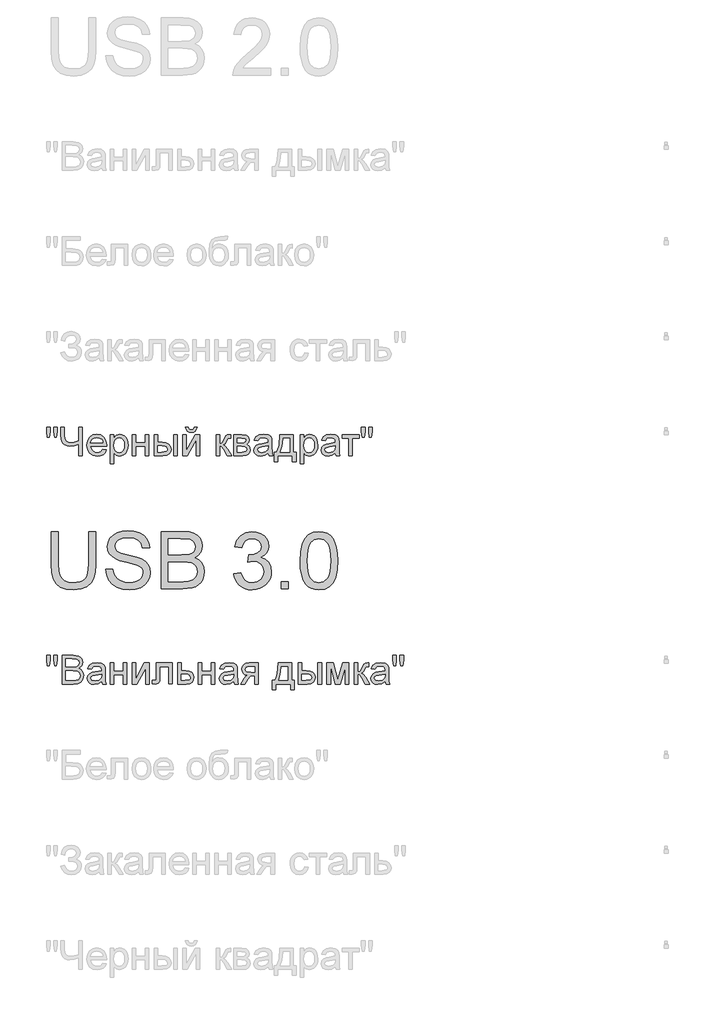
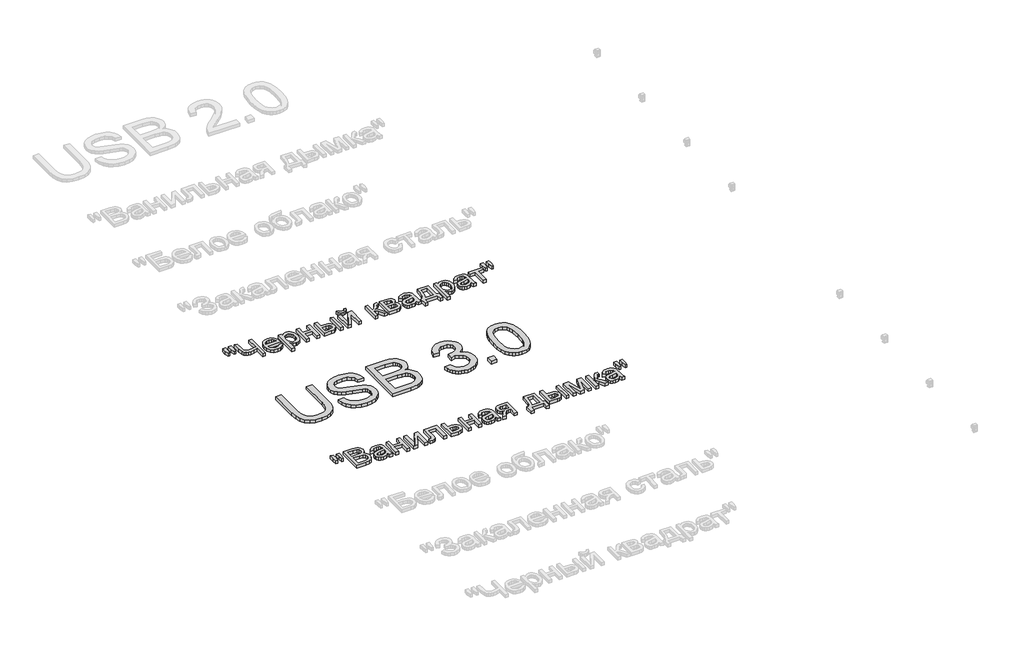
# One storey, part 32 of 168: 3 proxies.
"""IFC4 building model written with IfcOpenShell, lengths in millimetres."""

from ifc_helpers import new_model, si_unit, origin, origin_with_axes, place, context, project, spatial, polyline, outline, extrude, element, save

model = new_model("IFC4")

# Units and contexts
model_context = context("Model", 3, world=origin())
ifc_project = project(units=[si_unit("LENGTHUNIT", "METRE", prefix="MILLI")], contexts=[model_context])

# Site, building, storey
site = spatial("IfcSite", under=ifc_project)
building = spatial("IfcBuilding", under=site)
storey = spatial("IfcBuildingStorey", under=building, Name="Этаж 01", Elevation=0.0)

# Proxies
placement = place(None, origin())
element("IfcBuildingElementProxy", 1, Name="300 мм Arial 2", ObjectType="300 мм Arial 2", at=placement, inside=storey, context=model_context, shape_type="SweptSolid", body=[
    extrude(outline(polyline([(60396.8678623, -49465.4933673), (60434.5389786, -49465.4933673), (60434.5389786, -49639.3543982), (60431.9821987, -49680.069738), (60424.3118591, -49711.4224811), (60409.9828554, -49735.6107222), (60387.4500832, -49754.8325565), (60356.6583602, -49767.3865296), (60317.5525041, -49771.5711873), (60279.3019737, -49767.9291555), (60248.7217828, -49757.0030603), (60225.8027345, -49739.1699805), (60210.5356317, -49714.8069954), (60201.9547842, -49682.1298772), (60199.0945017, -49639.3543982), (60199.0945017, -49465.4933673), (60236.765618, -49465.4933673), (60236.765618, -49638.030023), (60238.623422, -49671.8843636), (60244.1968343, -49695.4564025), (60254.295195, -49711.781166), (60269.7278447, -49723.8936807), (60289.8509899, -49731.3984734), (60314.020837, -49733.900071), (60352.3357467, -49728.9520581), (60366.678546, -49722.7670421), (60377.8115749, -49714.1080196), (60386.1487006, -49701.9311256), (60392.1037904, -49685.1924948), (60396.8678623, -49638.030023), (60396.8678623, -49465.4933673)])), origin_with_axes(), (0.0, 0.0, 1.0), 20.0),
    extrude(outline(polyline([(60486.3367635, -49663.2667279), (60524.0078798, -49663.2667279), (60528.3304932, -49684.1716223), (60536.1479856, -49700.9746324), (60548.3432738, -49714.3103547), (60565.7992744, -49724.8133857), (60587.1364302, -49731.6283996), (60610.9751835, -49733.900071), (60631.9628513, -49732.1802226), (60650.3385569, -49727.0206777), (60665.2285807, -49718.8536974), (60675.7592028, -49708.1115431), (60682.0223938, -49695.7782992), (60684.1101241, -49682.83805), (60682.5466256, -49670.2288947), (60677.8561302, -49659.3303905), (60668.3279865, -49650.0321731), (60652.2515433, -49642.2238778), (60597.4003378, -49627.8396918), (60561.3938876, -49618.3207451), (60538.3552776, -49609.261651), (60519.6024929, -49596.5881163), (60506.3127558, -49581.229043), (60498.3940959, -49563.5155249), (60495.7545426, -49543.7786559), (60499.0194953, -49521.7149332), (60508.8143534, -49501.1411326), (60524.8815995, -49483.703526), (60546.9637163, -49471.0483854), (60573.469614, -49463.3504547), (60602.8082032, -49460.7844777), (60634.5932075, -49463.4700163), (60662.4050864, -49471.526632), (60685.2505583, -49484.7887779), (60702.1363419, -49503.0909072), (60712.8233138, -49525.2925856), (60717.0723509, -49550.253379), (60679.4012346, -49550.253379), (60672.4850531, -49527.7757891), (60658.0640788, -49511.5521931), (60635.5313066, -49501.7297438), (60604.2797311, -49498.4555941), (60572.2923917, -49501.6929556), (60550.3482307, -49511.4050403), (60537.6563018, -49525.6972558), (60533.4256589, -49542.6750099), (60536.4238971, -49557.1511664), (60545.4186119, -49568.7946315), (60566.6821912, -49579.205692), (60606.9284815, -49589.8374817), (60648.4623588, -49599.9358424), (60673.588699, -49608.7466162), (60695.0638105, -49622.4134323), (60710.0458048, -49639.2808218), (60718.8473815, -49659.1648436), (60721.7812404, -49681.8815568), (60718.4059231, -49705.1041078), (60708.2799712, -49726.9471013), (60691.8172519, -49745.7458712), (60669.4316325, -49759.8357516), (60642.5118675, -49768.6373284), (60612.4467114, -49771.5711873), (60575.5389503, -49768.4074021), (60545.1610945, -49758.9160466), (60520.9636563, -49743.0603326), (60502.5971477, -49720.8034719), (60490.8065297, -49693.6905689), (60486.3367635, -49663.2667279)])), origin_with_axes(), (0.0, 0.0, 1.0), 20.0),
    extrude(outline(polyline([(60778.2879149, -49766.8622977), (60778.2879149, -49465.4933673), (60893.2878266, -49465.4933673), (60924.9164811, -49467.7098563), (60949.61056, -49474.3593234), (60968.5380887, -49485.6073154), (60982.8670924, -49501.6193792), (60991.8893983, -49520.4549374), (60994.8968336, -49540.1734123), (60992.3676449, -49558.3191917), (60984.7800788, -49575.3797192), (60972.0789529, -49590.3065312), (60954.209085, -49602.0511639), (60975.5554377, -49613.1979883), (60991.3283783, -49630.1573483), (61001.0680541, -49651.8072037), (61004.3146127, -49677.0255145), (61002.0981237, -49698.0407735), (60995.4486566, -49717.5293222), (60985.5250398, -49734.1024061), (60973.4861015, -49746.3712706), (60958.7432305, -49755.2556208), (60940.7078157, -49761.6751616), (60892.4049098, -49766.8622977), (60778.2879149, -49766.8622977)]), holes=[polyline([(60815.9590312, -49587.9244953), (60884.7529643, -49587.9244953), (60924.9256781, -49584.6871337), (60938.9879674, -49579.1045244), (60949.0955252, -49570.7444061), (60955.1931693, -49559.7355374), (60957.2257173, -49546.206677), (60955.331125, -49533.0732898), (60949.6473482, -49521.6321597), (60940.4319042, -49512.7018243), (60927.9423105, -49507.1008209), (60879.5290399, -49503.1644836), (60815.9590312, -49503.1644836), (60815.9590312, -49587.9244953)]), polyline([(60815.9590312, -49729.1911814), (60893.2142502, -49729.1911814), (60921.1732818, -49727.7196534), (60944.8280941, -49719.515885), (60960.4998671, -49702.7772542), (60965.1075891, -49690.949848), (60966.6434964, -49677.3933965), (60964.8408746, -49661.6480471), (60959.4330093, -49648.1099897), (60949.9876391, -49637.5241853), (60936.0725026, -49630.6355949), (60916.3632247, -49626.8556074), (60889.5354302, -49625.5956116), (60815.9590312, -49625.5956116), (60815.9590312, -49729.1911814)])]), origin_with_axes(), (0.0, 0.0, 1.0), 20.0),
    extrude(outline(polyline([(61159.7079675, -49686.8111756), (61197.3790838, -49682.102286), (61205.8127785, -49705.7754924), (61218.1644165, -49721.7599651), (61235.041003, -49730.8650445), (61257.0495434, -49733.900071), (61282.8748594, -49729.7246103), (61302.8140636, -49717.1982284), (61315.5611747, -49698.509823), (61319.8102118, -49675.8482921), (61315.5979629, -49654.3363925), (61302.9612164, -49636.8895888), (61283.8313526, -49625.3288971), (61260.1397521, -49621.4753332), (61233.7258249, -49625.5956116), (61237.9196796, -49587.9244953), (61243.9529444, -49588.3659537), (61266.5225048, -49585.662021), (61286.7008322, -49577.550223), (61300.9378654, -49563.8282246), (61305.6835431, -49544.2936907), (61302.2438465, -49528.0241094), (61291.9247565, -49514.8263428), (61276.1794071, -49506.0799484), (61256.4609322, -49503.1644836), (61236.7056691, -49506.1075396), (61220.5556495, -49514.9367074), (61208.7650315, -49529.6519872), (61202.0879733, -49550.253379), (61164.416857, -49545.5444894), (61175.5084992, -49511.71774), (61195.2453682, -49486.462641), (61222.2479066, -49470.7356857), (61255.136557, -49465.4933673), (61278.8189605, -49468.0777383), (61300.5699834, -49475.8308513), (61318.9089009, -49488.0629277), (61332.3549878, -49504.0841886), (61340.6047415, -49522.5426677), (61343.3546595, -49542.0863987), (61340.7426973, -49560.2965574), (61332.9068108, -49576.814459), (61319.9573646, -49590.8859453), (61302.0047232, -49601.7568583), (61325.5859591, -49611.285002), (61343.0603539, -49627.508598), (61353.8760845, -49649.5447295), (61357.4813281, -49676.5104797), (61355.6787063, -49695.6219494), (61350.270841, -49713.2251028), (61341.2577321, -49729.3199401), (61328.6393796, -49743.9064612), (61313.2665108, -49756.0097789), (61295.9898526, -49764.6550058), (61276.8094051, -49769.8421419), (61255.7251682, -49771.5711873), (61236.6688809, -49770.0950608), (61219.3048507, -49765.6666812), (61203.6330777, -49758.2860487), (61189.6535619, -49747.9531632), (61177.9319218, -49735.2750299), (61169.033776, -49720.8586542), (61162.9591246, -49704.7040361), (61159.7079675, -49686.8111756)])), origin_with_axes(), (0.0, 0.0, 1.0), 20.0),
    extrude(outline(polyline([(61409.279113, -49766.8622977), (61409.279113, -49729.1911814), (61446.9502293, -49729.1911814), (61446.9502293, -49766.8622977), (61409.279113, -49766.8622977)])), origin_with_axes(), (0.0, 0.0, 1.0), 20.0),
    extrude(outline(polyline([(61508.1657933, -49618.6058537), (61510.9341053, -49570.3673271), (61519.2390413, -49531.8960674), (61532.997828, -49502.6034635), (61552.1276917, -49481.9009043), (61576.7665883, -49469.5952515), (61607.0524736, -49465.4933673), (61630.2658275, -49467.9213885), (61651.0511602, -49475.205452), (61668.4335845, -49487.0604493), (61681.438213, -49503.2012718), (61691.2606623, -49523.4899638), (61699.0965488, -49547.7885696), (61704.2285026, -49578.644672), (61705.9391539, -49618.6058537), (61703.198433, -49666.5684688), (61694.9762704, -49704.9477579), (61681.3002573, -49734.267953), (61662.1979847, -49755.0532857), (61637.5039057, -49767.4417119), (61607.0524736, -49771.5711873), (61586.3039291, -49769.7777625), (61567.9098293, -49764.3974884), (61551.8701743, -49755.4303647), (61538.1849641, -49742.8763916), (61525.0515769, -49720.1826711), (61515.670586, -49691.9063412), (61510.0419915, -49658.0474021), (61508.1657933, -49618.6058537)]), holes=[polyline([(61545.8369096, -49618.5322773), (61550.2514935, -49677.7888697), (61555.7697235, -49698.0568683), (61563.4952454, -49712.0846687), (61583.2137203, -49728.4462204), (61607.0524736, -49733.900071), (61630.8912269, -49728.4278263), (61650.6097018, -49712.0110923), (61658.3352237, -49697.9602993), (61663.8534537, -49677.6968992), (61668.2680376, -49618.5322773), (61664.0006065, -49560.6092571), (61658.6663175, -49540.4079371), (61651.198313, -49526.0467437), (61631.5166263, -49508.8850486), (61606.6110152, -49503.1644836), (61583.0297793, -49508.2044669), (61564.0838566, -49523.3244169), (61556.1008173, -49538.9594017), (61550.3986463, -49560.03904), (61545.8369096, -49618.5322773)])]), origin_with_axes(), (0.0, 0.0, 1.0), 20.0),
])
element("IfcBuildingElementProxy", 2, Name="150", ObjectType="150", at=placement, inside=storey, context=model_context, shape_type="SweptSolid", body=[
    extrude(outline(polyline([(60180.1485789, -48970.3300622), (60175.550054, -48941.2305964), (60175.550054, -48916.1778325), (60194.3856121, -48916.1778325), (60194.3856121, -48941.2305964), (60190.2653338, -48970.3300622), (60180.1485789, -48970.3300622)])), origin_with_axes(), (0.0, 0.0, 1.0), 20.0),
    extrude(outline(polyline([(60217.7093306, -48970.3300622), (60213.2211703, -48941.2305964), (60213.2211703, -48916.1778325), (60232.0567284, -48916.1778325), (60232.0567284, -48941.2305964), (60227.6421445, -48970.3300622), (60217.7093306, -48970.3300622)])), origin_with_axes(), (0.0, 0.0, 1.0), 20.0),
    extrude(outline(polyline([(60363.9056355, -49066.8622977), (60345.0700773, -49066.8622977), (60345.0700773, -49006.5296505), (60320.0908899, -49014.6966308), (60298.4226404, -49017.4189576), (60283.7395502, -49015.556555), (60270.886673, -49009.9693472), (60260.926268, -49001.5172583), (60254.9205944, -48991.0602126), (60250.8922866, -48961.0594359), (60250.8922866, -48916.1778325), (60269.7278447, -48916.1778325), (60269.7278447, -48958.5210502), (60271.990319, -48978.8879171), (60278.7777418, -48990.8394834), (60288.7381468, -48996.6474204), (60300.5195677, -48998.5833994), (60322.2521966, -48996.2473488), (60345.0700773, -48989.2391968), (60345.0700773, -48916.1778325), (60363.9056355, -48916.1778325), (60363.9056355, -49066.8622977)])), origin_with_axes(), (0.0, 0.0, 1.0), 20.0),
    extrude(outline(polyline([(60471.9893657, -49033.900071), (60490.4570418, -49036.2545157), (60483.8029762, -49050.1696522), (60473.1849822, -49060.5715156), (60458.8421829, -49067.0554358), (60441.0137017, -49069.2167425), (60418.9131908, -49065.4873388), (60401.9078456, -49054.2991276), (60391.0645238, -49036.3786759), (60387.4500832, -49012.4525506), (60391.101312, -48987.7216835), (60402.0549984, -48969.2264162), (60418.8304174, -48957.6933157), (60439.9468439, -48953.8489488), (60460.4056814, -48957.6841186), (60476.7534375, -48969.189628), (60487.4725992, -48987.6481071), (60491.045653, -49012.342186), (60490.9352884, -49017.4189576), (60406.2856413, -49017.4189576), (60409.5459955, -49031.518035), (60417.1197661, -49041.8831103), (60428.0504599, -49048.2566658), (60441.3815837, -49050.3811843), (60459.8492598, -49046.444847), (60471.9893657, -49033.900071)]), holes=[polyline([(60406.2856413, -48998.5833994), (60472.2100949, -48998.5833994), (60469.6625121, -48988.6321915), (60464.668514, -48981.5136749), (60453.6872364, -48974.8917989), (60439.8732675, -48972.684507), (60427.1767401, -48974.445742), (60416.6783077, -48979.7294472), (60409.3804486, -48987.9654053), (60406.2856413, -48998.5833994)])]), origin_with_axes(), (0.0, 0.0, 1.0), 20.0),
    extrude(outline(polyline([(60509.8812112, -49109.2423036), (60509.8812112, -48956.2033936), (60528.7167693, -48956.2033936), (60528.7167693, -48974.6710697), (60541.739792, -48959.054479), (60559.3245513, -48953.8489488), (60572.0624654, -48955.6699647), (60583.2000928, -48961.1330123), (60592.268384, -48969.9069979), (60598.7982894, -48981.6608277), (60604.0590019, -49010.6867171), (60602.5736784, -49026.7953499), (60598.1177077, -49041.2025286), (60590.8336442, -49053.1770875), (60580.8640422, -49061.9878613), (60569.2527667, -49067.4095222), (60557.043683, -49069.2167425), (60540.6545401, -49064.3790943), (60528.7167693, -49052.1470179), (60528.7167693, -49109.2423036), (60509.8812112, -49109.2423036)]), holes=[polyline([(60528.7167693, -49012.4157624), (60530.7539159, -49029.301546), (60536.8653555, -49041.1105581), (60545.8830629, -49048.0635278), (60556.6390128, -49050.3811843), (60567.5697066, -49047.9807543), (60576.8173402, -49040.7794643), (60583.1219179, -49028.5381909), (60585.2234438, -49011.0178109), (60583.1725017, -48994.2239978), (60577.0196753, -48982.2494388), (60568.0157635, -48975.0757399), (60557.411565, -48972.684507), (60546.7659797, -48975.2274913), (60537.4171785, -48982.8564441), (60530.8918716, -48995.3322423), (60528.7167693, -49012.4157624)])]), origin_with_axes(), (0.0, 0.0, 1.0), 20.0),
    extrude(outline(polyline([(60625.2490049, -48956.2033936), (60644.084563, -48956.2033936), (60644.084563, -48998.5833994), (60693.5279032, -48998.5833994), (60693.5279032, -48956.2033936), (60712.3634613, -48956.2033936), (60712.3634613, -49066.8622977), (60693.5279032, -49066.8622977), (60693.5279032, -49017.4189576), (60644.084563, -49017.4189576), (60644.084563, -49066.8622977), (60625.2490049, -49066.8622977), (60625.2490049, -48956.2033936)])), origin_with_axes(), (0.0, 0.0, 1.0), 20.0),
    extrude(outline(polyline([(60844.2123684, -48956.2033936), (60863.0479266, -48956.2033936), (60863.0479266, -49066.8622977), (60844.2123684, -49066.8622977), (60844.2123684, -48956.2033936)])), origin_with_axes(), (0.0, 0.0, 1.0), 20.0),
    extrude(outline(polyline([(60740.6167986, -48956.2033936), (60759.4523567, -48956.2033936), (60759.4523567, -48996.2289547), (60782.739287, -48996.2289547), (60802.8670307, -48998.587998), (60817.780047, -49005.6651278), (60827.0092866, -49016.8901272), (60830.0856998, -49031.692779), (60827.5059273, -49045.1710556), (60819.7666098, -49056.5432078), (60806.3619096, -49064.2825252), (60786.785989, -49066.8622977), (60740.6167986, -49066.8622977), (60740.6167986, -48956.2033936)]), holes=[polyline([(60759.4523567, -49048.0267396), (60778.8029497, -49048.0267396), (60803.7821371, -49044.0720081), (60809.3831405, -49039.0090322), (60811.2501416, -49031.7295672), (60805.7135176, -49020.1412843), (60796.8337659, -49016.3337057), (60781.267759, -49015.0645128), (60759.4523567, -49015.0645128), (60759.4523567, -49048.0267396)])]), origin_with_axes(), (0.0, 0.0, 1.0), 20.0),
    extrude(outline(polyline([(60891.3012638, -48956.2033936), (60910.1368219, -48956.2033936), (60910.1368219, -49040.5955233), (60956.4163769, -48956.2033936), (60980.770165, -48956.2033936), (60980.770165, -49066.8622977), (60961.9346069, -49066.8622977), (60961.9346069, -48982.9852028), (60915.9493575, -49066.8622977), (60891.3012638, -49066.8622977), (60891.3012638, -48956.2033936)])), origin_with_axes(), (0.0, 0.0, 1.0), 20.0),
    extrude(outline(polyline([(60952.5168278, -48916.1778325), (60966.6434964, -48916.1778325), (60963.6038714, -48928.2397634), (60957.5016288, -48937.1287121), (60948.6126801, -48942.6055553), (60937.2129368, -48944.4311697), (60924.8429047, -48942.6193509), (60915.2503817, -48937.1838944), (60908.6928851, -48928.3087413), (60905.4279324, -48916.1778325), (60919.554601, -48916.1778325), (60924.8521017, -48926.7912281), (60935.5206796, -48930.3045011), (60947.219327, -48926.9015927), (60952.5168278, -48916.1778325)])), origin_with_axes(), (0.0, 0.0, 1.0), 20.0),
    extrude(outline(polyline([(61067.8846215, -48956.2033936), (61086.7201796, -48956.2033936), (61086.7201796, -49003.292289), (61099.3385321, -48999.9077746), (61109.6760161, -48980.1892997), (61118.2660607, -48963.1747574), (61125.8444298, -48957.6381334), (61139.6216105, -48956.2033936), (61143.2268541, -48956.2033936), (61143.2268541, -48975.1493163), (61138.1500825, -48975.0389517), (61128.9530327, -48977.0255145), (61122.4783096, -48989.4231377), (61114.8815464, -49002.8324365), (61104.2313626, -49009.3991301), (61116.113951, -49016.7291788), (61127.7758103, -49032.1710256), (61147.9357436, -49066.8622977), (61126.5250115, -49066.8622977), (61106.7697484, -49032.9067896), (61096.8369345, -49018.5409977), (61086.7201796, -49015.0645128), (61086.7201796, -49066.8622977), (61067.8846215, -49066.8622977), (61067.8846215, -48956.2033936)])), origin_with_axes(), (0.0, 0.0, 1.0), 20.0),
    extrude(outline(polyline([(61159.7079675, -48956.2033936), (61201.2050565, -48956.2033936), (61223.9585579, -48958.7233853), (61236.7608514, -48967.9572233), (61242.1135344, -48984.0520606), (61238.8761728, -48997.1302655), (61229.1273, -49006.4560741), (61241.7824406, -49016.6647995), (61246.8224239, -49034.4151058), (61243.6310476, -49048.7717006), (61236.0434815, -49058.8792584), (61224.0321343, -49064.8665379), (61207.569415, -49066.8622977), (61159.7079675, -49066.8622977), (61159.7079675, -48956.2033936)]), holes=[polyline([(61178.5435256, -48998.5833994), (61197.1583546, -48998.5833994), (61212.5174279, -48997.6269062), (61219.9854324, -48993.8009335), (61223.2779762, -48986.884752), (61221.8340394, -48981.2653545), (61217.5022289, -48977.6509139), (61197.7469658, -48975.0389517), (61178.5435256, -48975.0389517), (61178.5435256, -48998.5833994)]), polyline([(61178.5435256, -49048.0267396), (61201.6465149, -49048.0267396), (61222.137542, -49044.6238311), (61226.377382, -49039.9839195), (61227.9868658, -49032.8700014), (61224.7678983, -49023.8017102), (61216.3801888, -49018.5226036), (61199.8071049, -49017.4189576), (61178.5435256, -49017.4189576), (61178.5435256, -49048.0267396)])]), origin_with_axes(), (0.0, 0.0, 1.0), 20.0),
    extrude(outline(polyline([(61341.0002147, -49052.7356291), (61322.7348736, -49065.5011344), (61302.5565462, -49069.2167425), (61286.8157953, -49066.9818594), (61275.2045198, -49060.27721), (61268.0446165, -49050.0960758), (61265.6579821, -49037.4317381), (61269.2632256, -49022.5325173), (61278.736187, -49011.7167867), (61291.9247565, -49005.5363691), (61308.2219289, -49002.7036778), (61340.8898501, -48996.2289547), (61341.0002147, -48992.0350999), (61339.7034307, -48983.6289963), (61335.8130786, -48978.1291605), (61327.1126694, -48974.0456704), (61314.9909576, -48972.684507), (61295.9346703, -48976.3081446), (61286.847985, -48989.1656204), (61268.0124268, -48986.8111756), (61276.161013, -48968.4170758), (61292.56855, -48957.6381334), (61317.4189788, -48953.8489488), (61340.2460566, -48957.196675), (61353.1403205, -48965.6027786), (61358.9160679, -48978.3866779), (61359.8357728, -48994.8677913), (61359.8357728, -49018.3018744), (61360.792266, -49051.0249778), (61364.5446624, -49066.8622977), (61345.7091042, -49066.8622977), (61341.0002147, -49052.7356291)]), holes=[polyline([(61341.0002147, -49015.0645128), (61310.6131619, -49020.8402601), (61294.40796, -49023.8936807), (61287.0687142, -49028.8600876), (61284.4935402, -49036.1073629), (61290.1037407, -49046.2976942), (61306.5664599, -49050.3811843), (61325.6227473, -49045.8746299), (61337.9100059, -49034.9669288), (61340.8898501, -49020.3988017), (61341.0002147, -49015.0645128)])]), origin_with_axes(), (0.0, 0.0, 1.0), 20.0),
    extrude(outline(polyline([(61402.2157787, -48956.2033936), (61472.8491218, -48956.2033936), (61472.8491218, -49048.0267396), (61486.9757904, -49048.0267396), (61486.9757904, -49097.4700797), (61468.1402322, -49097.4700797), (61468.1402322, -49066.8622977), (61390.4435548, -49066.8622977), (61390.4435548, -49097.4700797), (61371.6079967, -49097.4700797), (61371.6079967, -49048.0267396), (61383.3802205, -49048.0267396), (61391.9380754, -49032.5619002), (61397.9299534, -49012.1030628), (61402.2157787, -48956.2033936)]), holes=[polyline([(61418.6968921, -48975.0389517), (61414.2823081, -49017.9523865), (61404.5702235, -49048.0267396), (61454.0135636, -49048.0267396), (61454.0135636, -48975.0389517), (61418.6968921, -48975.0389517)])]), origin_with_axes(), (0.0, 0.0, 1.0), 20.0),
    extrude(outline(polyline([(61508.1657933, -49109.2423036), (61508.1657933, -48956.2033936), (61527.0013514, -48956.2033936), (61527.0013514, -48974.6710697), (61540.0243741, -48959.054479), (61557.6091334, -48953.8489488), (61570.3470475, -48955.6699647), (61581.4846749, -48961.1330123), (61590.5529661, -48969.9069979), (61597.0828715, -48981.6608277), (61602.3435841, -49010.6867171), (61600.8582605, -49026.7953499), (61596.4022898, -49041.2025286), (61589.1182263, -49053.1770875), (61579.1486243, -49061.9878613), (61567.5373488, -49067.4095222), (61555.3282651, -49069.2167425), (61538.9391222, -49064.3790943), (61527.0013514, -49052.1470179), (61527.0013514, -49109.2423036), (61508.1657933, -49109.2423036)]), holes=[polyline([(61527.0013514, -49012.4157624), (61529.038498, -49029.301546), (61535.1499376, -49041.1105581), (61544.167645, -49048.0635278), (61554.9235949, -49050.3811843), (61565.8542887, -49047.9807543), (61575.1019223, -49040.7794643), (61581.4065, -49028.5381909), (61583.5080259, -49011.0178109), (61581.4570838, -48994.2239978), (61575.3042574, -48982.2494388), (61566.3003456, -48975.0757399), (61555.6961471, -48972.684507), (61545.0505618, -48975.2274913), (61535.7017606, -48982.8564441), (61529.1764537, -48995.3322423), (61527.0013514, -49012.4157624)])]), origin_with_axes(), (0.0, 0.0, 1.0), 20.0),
    extrude(outline(polyline([(61694.1669301, -49052.7356291), (61675.901589, -49065.5011344), (61655.7232616, -49069.2167425), (61639.9825107, -49066.9818594), (61628.3712352, -49060.27721), (61621.2113319, -49050.0960758), (61618.8246974, -49037.4317381), (61622.429941, -49022.5325173), (61631.9029024, -49011.7167867), (61645.0914719, -49005.5363691), (61661.3886443, -49002.7036778), (61694.0565655, -48996.2289547), (61694.1669301, -48992.0350999), (61692.870146, -48983.6289963), (61688.9797939, -48978.1291605), (61680.2793847, -48974.0456704), (61668.157673, -48972.684507), (61649.1013856, -48976.3081446), (61640.0147004, -48989.1656204), (61621.1791422, -48986.8111756), (61629.3277284, -48968.4170758), (61645.7352654, -48957.6381334), (61670.5856942, -48953.8489488), (61693.412772, -48957.196675), (61706.3070359, -48965.6027786), (61712.0827832, -48978.3866779), (61713.0024882, -48994.8677913), (61713.0024882, -49018.3018744), (61713.9589814, -49051.0249778), (61717.7113777, -49066.8622977), (61698.8758196, -49066.8622977), (61694.1669301, -49052.7356291)]), holes=[polyline([(61694.1669301, -49015.0645128), (61663.7798773, -49020.8402601), (61647.5746754, -49023.8936807), (61640.2354296, -49028.8600876), (61637.6602556, -49036.1073629), (61643.270456, -49046.2976942), (61659.7331753, -49050.3811843), (61678.7894627, -49045.8746299), (61691.0767213, -49034.9669288), (61694.0565655, -49020.3988017), (61694.1669301, -49015.0645128)])]), origin_with_axes(), (0.0, 0.0, 1.0), 20.0),
    extrude(outline(polyline([(61729.4836016, -48956.2033936), (61818.9525028, -48956.2033936), (61818.9525028, -48975.0389517), (61783.6358313, -48975.0389517), (61783.6358313, -49066.8622977), (61764.8002731, -49066.8622977), (61764.8002731, -48975.0389517), (61729.4836016, -48975.0389517), (61729.4836016, -48956.2033936)])), origin_with_axes(), (0.0, 0.0, 1.0), 20.0),
    extrude(outline(polyline([(61835.3232516, -48970.3300622), (61830.7247267, -48941.2305964), (61830.7247267, -48916.1778325), (61849.5602848, -48916.1778325), (61849.5602848, -48941.2305964), (61845.4400065, -48970.3300622), (61835.3232516, -48970.3300622)])), origin_with_axes(), (0.0, 0.0, 1.0), 20.0),
    extrude(outline(polyline([(61872.8840033, -48970.3300622), (61868.395843, -48941.2305964), (61868.395843, -48916.1778325), (61887.2314011, -48916.1778325), (61887.2314011, -48941.2305964), (61882.8168172, -48970.3300622), (61872.8840033, -48970.3300622)])), origin_with_axes(), (0.0, 0.0, 1.0), 20.0),
])
element("IfcBuildingElementProxy", 3, Name="150", ObjectType="150", at=placement, inside=storey, context=model_context, shape_type="SweptSolid", body=[
    extrude(outline(polyline([(60180.1485789, -50170.3300622), (60175.550054, -50141.2305964), (60175.550054, -50116.1778325), (60194.3856121, -50116.1778325), (60194.3856121, -50141.2305964), (60190.2653338, -50170.3300622), (60180.1485789, -50170.3300622)])), origin_with_axes(), (0.0, 0.0, 1.0), 20.0),
    extrude(outline(polyline([(60217.7093306, -50170.3300622), (60213.2211703, -50141.2305964), (60213.2211703, -50116.1778325), (60232.0567284, -50116.1778325), (60232.0567284, -50141.2305964), (60227.6421445, -50170.3300622), (60217.7093306, -50170.3300622)])), origin_with_axes(), (0.0, 0.0, 1.0), 20.0),
    extrude(outline(polyline([(60257.9556209, -50266.8622977), (60257.9556209, -50116.1778325), (60315.4555767, -50116.1778325), (60343.6169435, -50120.6108106), (60353.0807078, -50126.2348066), (60360.2452096, -50134.2408385), (60366.2600803, -50153.517855), (60361.2017028, -50171.1210085), (60345.9162059, -50184.4567308), (60356.5893823, -50190.030143), (60364.4758526, -50198.509823), (60369.3456905, -50209.3347507), (60370.9689698, -50221.9439061), (60366.5359918, -50242.19581), (60355.5547142, -50256.6167842), (60339.1655713, -50264.2687297), (60315.0141183, -50266.8622977), (60257.9556209, -50266.8622977)]), holes=[polyline([(60276.791179, -50177.3933965), (60311.1881456, -50177.3933965), (60331.2745025, -50175.7747157), (60343.3594261, -50168.8033519), (60347.4245221, -50156.5344874), (60343.6353376, -50144.2472287), (60332.7828187, -50136.9815593), (60308.5761834, -50135.0133907), (60276.791179, -50135.0133907), (60276.791179, -50177.3933965)]), polyline([(60276.791179, -50248.0267396), (60315.4187885, -50248.0267396), (60329.3983043, -50247.2909756), (60341.2257105, -50243.1890913), (60349.061597, -50234.819776), (60352.1334117, -50222.1278471), (60348.5281681, -50207.4861437), (60336.8479148, -50198.7489463), (60313.5793786, -50196.2289547), (60276.791179, -50196.2289547), (60276.791179, -50248.0267396)])]), origin_with_axes(), (0.0, 0.0, 1.0), 20.0),
    extrude(outline(polyline([(60465.1467606, -50252.7356291), (60446.8814195, -50265.5011344), (60426.7030921, -50269.2167425), (60410.9623412, -50266.9818594), (60399.3510657, -50260.27721), (60392.1911624, -50250.0960758), (60389.804528, -50237.4317381), (60393.4097715, -50222.5325173), (60402.8827329, -50211.7167867), (60416.0713024, -50205.5363691), (60432.3684748, -50202.7036778), (60465.036396, -50196.2289547), (60465.1467606, -50192.0350999), (60463.8499765, -50183.6289963), (60459.9596244, -50178.1291605), (60451.2592153, -50174.0456704), (60439.1375035, -50172.684507), (60420.0812162, -50176.3081446), (60410.9945309, -50189.1656204), (60392.1589727, -50186.8111756), (60400.3075589, -50168.4170758), (60416.7150959, -50157.6381334), (60441.5655247, -50153.8489488), (60464.3926025, -50157.196675), (60477.2868664, -50165.6027786), (60483.0626137, -50178.3866779), (60483.9823187, -50194.8677913), (60483.9823187, -50218.3018744), (60484.9388119, -50251.0249778), (60488.6912083, -50266.8622977), (60469.8556501, -50266.8622977), (60465.1467606, -50252.7356291)]), holes=[polyline([(60465.1467606, -50215.0645128), (60434.7597078, -50220.8402601), (60418.5545059, -50223.8936807), (60411.2152601, -50228.8600876), (60408.6400861, -50236.1073629), (60414.2502865, -50246.2976942), (60430.7130058, -50250.3811843), (60449.7692932, -50245.8746299), (60462.0565518, -50234.9669288), (60465.036396, -50220.3988017), (60465.1467606, -50215.0645128)])]), origin_with_axes(), (0.0, 0.0, 1.0), 20.0),
    extrude(outline(polyline([(60509.8812112, -50156.2033936), (60528.7167693, -50156.2033936), (60528.7167693, -50198.5833994), (60578.1601095, -50198.5833994), (60578.1601095, -50156.2033936), (60596.9956676, -50156.2033936), (60596.9956676, -50266.8622977), (60578.1601095, -50266.8622977), (60578.1601095, -50217.4189576), (60528.7167693, -50217.4189576), (60528.7167693, -50266.8622977), (60509.8812112, -50266.8622977), (60509.8812112, -50156.2033936)])), origin_with_axes(), (0.0, 0.0, 1.0), 20.0),
    extrude(outline(polyline([(60625.2490049, -50156.2033936), (60644.084563, -50156.2033936), (60644.084563, -50240.5955233), (60690.364118, -50156.2033936), (60714.7179061, -50156.2033936), (60714.7179061, -50266.8622977), (60695.8823479, -50266.8622977), (60695.8823479, -50182.9852028), (60649.8970985, -50266.8622977), (60625.2490049, -50266.8622977), (60625.2490049, -50156.2033936)])), origin_with_axes(), (0.0, 0.0, 1.0), 20.0),
    extrude(outline(polyline([(60752.3890224, -50156.2033936), (60837.1490341, -50156.2033936), (60837.1490341, -50266.7519331), (60818.3134759, -50266.7519331), (60818.3134759, -50175.0389517), (60771.2245806, -50175.0389517), (60771.2245806, -50227.830018), (60769.9553877, -50252.1838061), (60762.9840239, -50262.4661079), (60746.5029105, -50266.8622977), (60731.1990195, -50265.9058045), (60731.1990195, -50248.0267396), (60739.6235172, -50248.0267396), (60748.1399854, -50246.8679113), (60751.5428938, -50243.1890913), (60752.3890224, -50226.7631603), (60752.3890224, -50156.2033936)])), origin_with_axes(), (0.0, 0.0, 1.0), 20.0),
    extrude(outline(polyline([(60865.4023713, -50156.2033936), (60884.2379295, -50156.2033936), (60884.2379295, -50196.2289547), (60905.9429672, -50196.2289547), (60924.7601312, -50198.587998), (60938.6844648, -50205.6651278), (60947.2929034, -50216.8901272), (60950.162383, -50231.692779), (60947.7205663, -50245.1710556), (60940.395116, -50256.5432078), (60927.6985887, -50264.2825252), (60909.1435405, -50266.8622977), (60865.4023713, -50266.8622977), (60865.4023713, -50156.2033936)]), holes=[polyline([(60884.2379295, -50248.0267396), (60901.8226888, -50248.0267396), (60924.539402, -50244.0720081), (60929.6299692, -50239.0090322), (60931.3268249, -50231.7295672), (60926.3052356, -50220.1412843), (60918.2348244, -50216.3337057), (60904.066769, -50215.0645128), (60884.2379295, -50215.0645128), (60884.2379295, -50248.0267396)])]), origin_with_axes(), (0.0, 0.0, 1.0), 20.0),
    extrude(outline(polyline([(60973.7068307, -50156.2033936), (60992.5423889, -50156.2033936), (60992.5423889, -50198.5833994), (61041.985729, -50198.5833994), (61041.985729, -50156.2033936), (61060.8212872, -50156.2033936), (61060.8212872, -50266.8622977), (61041.985729, -50266.8622977), (61041.985729, -50217.4189576), (60992.5423889, -50217.4189576), (60992.5423889, -50266.8622977), (60973.7068307, -50266.8622977), (60973.7068307, -50156.2033936)])), origin_with_axes(), (0.0, 0.0, 1.0), 20.0),
    extrude(outline(polyline([(61159.7079675, -50252.7356291), (61141.4426264, -50265.5011344), (61121.264299, -50269.2167425), (61105.5235481, -50266.9818594), (61093.9122726, -50260.27721), (61086.7523693, -50250.0960758), (61084.3657349, -50237.4317381), (61087.9709784, -50222.5325173), (61097.4439398, -50211.7167867), (61110.6325093, -50205.5363691), (61126.9296817, -50202.7036778), (61159.5976029, -50196.2289547), (61159.7079675, -50192.0350999), (61158.4111834, -50183.6289963), (61154.5208313, -50178.1291605), (61145.8204221, -50174.0456704), (61133.6987104, -50172.684507), (61114.6424231, -50176.3081446), (61105.5557378, -50189.1656204), (61086.7201796, -50186.8111756), (61094.8687658, -50168.4170758), (61111.2763028, -50157.6381334), (61136.1267316, -50153.8489488), (61158.9538094, -50157.196675), (61171.8480733, -50165.6027786), (61177.6238206, -50178.3866779), (61178.5435256, -50194.8677913), (61178.5435256, -50218.3018744), (61179.5000188, -50251.0249778), (61183.2524152, -50266.8622977), (61164.416857, -50266.8622977), (61159.7079675, -50252.7356291)]), holes=[polyline([(61159.7079675, -50215.0645128), (61129.3209147, -50220.8402601), (61113.1157128, -50223.8936807), (61105.776467, -50228.8600876), (61103.201293, -50236.1073629), (61108.8114934, -50246.2976942), (61125.2742127, -50250.3811843), (61144.3305001, -50245.8746299), (61156.6177587, -50234.9669288), (61159.5976029, -50220.3988017), (61159.7079675, -50215.0645128)])]), origin_with_axes(), (0.0, 0.0, 1.0), 20.0),
    extrude(outline(polyline([(61289.2024298, -50156.2033936), (61289.2024298, -50266.8622977), (61270.3668716, -50266.8622977), (61270.3668716, -50224.4822919), (61260.1029639, -50224.4822919), (61246.1234481, -50226.8735249), (61232.9900609, -50242.949968), (61217.9804755, -50266.8622977), (61196.2018614, -50266.8622977), (61215.1109959, -50236.6223977), (61223.4619172, -50225.7698789), (61231.1506509, -50220.9506247), (61218.2747811, -50217.0050903), (61209.224884, -50209.5094947), (61203.872201, -50199.5398926), (61202.0879733, -50188.172339), (61204.5251915, -50175.278075), (61211.8368462, -50165.0693497), (61223.7654199, -50158.4198826), (61240.0533952, -50156.2033936), (61289.2024298, -50156.2033936)]), holes=[polyline([(61270.3668716, -50175.0389517), (61245.5348369, -50175.0389517), (61232.7095509, -50176.1288021), (61225.4300859, -50179.3983534), (61220.9235315, -50189.6070787), (61222.583599, -50196.7853762), (61227.5638015, -50201.7655787), (61251.0898551, -50205.6467337), (61270.3668716, -50205.6467337), (61270.3668716, -50175.0389517)])]), origin_with_axes(), (0.0, 0.0, 1.0), 20.0),
    extrude(outline(polyline([(61392.7979996, -50156.2033936), (61463.4313427, -50156.2033936), (61463.4313427, -50248.0267396), (61477.5580113, -50248.0267396), (61477.5580113, -50297.4700797), (61458.7224531, -50297.4700797), (61458.7224531, -50266.8622977), (61381.0257758, -50266.8622977), (61381.0257758, -50297.4700797), (61362.1902176, -50297.4700797), (61362.1902176, -50248.0267396), (61373.9624415, -50248.0267396), (61382.5202964, -50232.5619002), (61388.5121744, -50212.1030628), (61392.7979996, -50156.2033936)]), holes=[polyline([(61409.279113, -50175.0389517), (61404.864529, -50217.9523865), (61395.1524444, -50248.0267396), (61444.5957845, -50248.0267396), (61444.5957845, -50175.0389517), (61409.279113, -50175.0389517)])]), origin_with_axes(), (0.0, 0.0, 1.0), 20.0),
    extrude(outline(polyline([(61602.3435841, -50156.2033936), (61621.1791422, -50156.2033936), (61621.1791422, -50266.8622977), (61602.3435841, -50266.8622977), (61602.3435841, -50156.2033936)])), origin_with_axes(), (0.0, 0.0, 1.0), 20.0),
    extrude(outline(polyline([(61498.7480142, -50156.2033936), (61517.5835724, -50156.2033936), (61517.5835724, -50196.2289547), (61540.8705027, -50196.2289547), (61560.9982463, -50198.587998), (61575.9112627, -50205.6651278), (61585.1405023, -50216.8901272), (61588.2169154, -50231.692779), (61585.637143, -50245.1710556), (61577.8978255, -50256.5432078), (61564.4931253, -50264.2825252), (61544.9172046, -50266.8622977), (61498.7480142, -50266.8622977), (61498.7480142, -50156.2033936)]), holes=[polyline([(61517.5835724, -50248.0267396), (61536.9341653, -50248.0267396), (61561.9133528, -50244.0720081), (61567.5143562, -50239.0090322), (61569.3813573, -50231.7295672), (61563.8447333, -50220.1412843), (61554.9649816, -50216.3337057), (61539.3989747, -50215.0645128), (61517.5835724, -50215.0645128), (61517.5835724, -50248.0267396)])]), origin_with_axes(), (0.0, 0.0, 1.0), 20.0),
    extrude(outline(polyline([(61649.4324794, -50156.2033936), (61681.8428832, -50156.2033936), (61706.8220707, -50244.789378), (61733.7510327, -50156.2033936), (61764.8002731, -50156.2033936), (61764.8002731, -50266.8622977), (61745.964715, -50266.8622977), (61745.964715, -50177.7612785), (61718.8886001, -50266.8622977), (61694.1669301, -50266.8622977), (61668.2680376, -50173.4938474), (61668.2680376, -50266.8622977), (61649.4324794, -50266.8622977), (61649.4324794, -50156.2033936)])), origin_with_axes(), (0.0, 0.0, 1.0), 20.0),
    extrude(outline(polyline([(61793.0536104, -50156.2033936), (61811.8891685, -50156.2033936), (61811.8891685, -50203.292289), (61824.5075209, -50199.9077746), (61834.845005, -50180.1892997), (61843.4350496, -50163.1747574), (61851.0134187, -50157.6381334), (61864.7905994, -50156.2033936), (61868.395843, -50156.2033936), (61868.395843, -50175.1493163), (61863.3190714, -50175.0389517), (61854.1220216, -50177.0255145), (61847.6472984, -50189.4231377), (61840.0505352, -50202.8324365), (61829.4003515, -50209.3991301), (61841.2829399, -50216.7291788), (61852.9447992, -50232.1710256), (61873.1047325, -50266.8622977), (61851.6940004, -50266.8622977), (61831.9387372, -50232.9067896), (61822.0059234, -50218.5409977), (61811.8891685, -50215.0645128), (61811.8891685, -50266.8622977), (61793.0536104, -50266.8622977), (61793.0536104, -50156.2033936)])), origin_with_axes(), (0.0, 0.0, 1.0), 20.0),
    extrude(outline(polyline([(61955.5102994, -50252.7356291), (61937.2449584, -50265.5011344), (61917.0666309, -50269.2167425), (61901.3258801, -50266.9818594), (61889.7146046, -50260.27721), (61882.5547013, -50250.0960758), (61880.1680668, -50237.4317381), (61883.7733104, -50222.5325173), (61893.2462717, -50211.7167867), (61906.4348413, -50205.5363691), (61922.7320137, -50202.7036778), (61955.3999348, -50196.2289547), (61955.5102994, -50192.0350999), (61954.2135154, -50183.6289963), (61950.3231633, -50178.1291605), (61941.6227541, -50174.0456704), (61929.5010424, -50172.684507), (61910.444755, -50176.3081446), (61901.3580697, -50189.1656204), (61882.5225116, -50186.8111756), (61890.6710978, -50168.4170758), (61907.0786348, -50157.6381334), (61931.9290635, -50153.8489488), (61954.7561413, -50157.196675), (61967.6504053, -50165.6027786), (61973.4261526, -50178.3866779), (61974.3458576, -50194.8677913), (61974.3458576, -50218.3018744), (61975.3023508, -50251.0249778), (61979.0547471, -50266.8622977), (61960.219189, -50266.8622977), (61955.5102994, -50252.7356291)]), holes=[polyline([(61955.5102994, -50215.0645128), (61925.1232466, -50220.8402601), (61908.9180447, -50223.8936807), (61901.5787989, -50228.8600876), (61899.003625, -50236.1073629), (61904.6138254, -50246.2976942), (61921.0765447, -50250.3811843), (61940.132832, -50245.8746299), (61952.4200907, -50234.9669288), (61955.3999348, -50220.3988017), (61955.5102994, -50215.0645128)])]), origin_with_axes(), (0.0, 0.0, 1.0), 20.0),
    extrude(outline(polyline([(62000.1343854, -50170.3300622), (61995.5358605, -50141.2305964), (61995.5358605, -50116.1778325), (62014.3714187, -50116.1778325), (62014.3714187, -50141.2305964), (62010.2511403, -50170.3300622), (62000.1343854, -50170.3300622)])), origin_with_axes(), (0.0, 0.0, 1.0), 20.0),
    extrude(outline(polyline([(62037.6951372, -50170.3300622), (62033.2069768, -50141.2305964), (62033.2069768, -50116.1778325), (62052.042535, -50116.1778325), (62052.042535, -50141.2305964), (62047.627951, -50170.3300622), (62037.6951372, -50170.3300622)])), origin_with_axes(), (0.0, 0.0, 1.0), 20.0),
])

save(model, "model.ifc")
